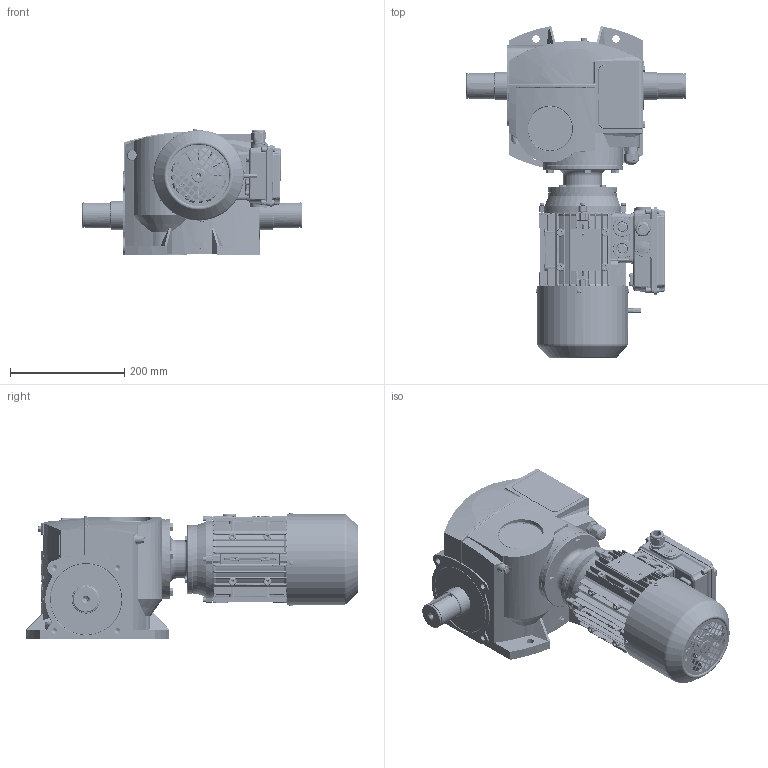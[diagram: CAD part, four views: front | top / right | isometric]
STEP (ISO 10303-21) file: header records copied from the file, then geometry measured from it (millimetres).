
FILE_DESCRIPTION (( 'STEP AP214' ), '1' );
FILE_NAME ('010192953_EWA_16_3D-Modell_DE_12216.9703.1901_10192953.STEP', '2023-03-13T09:28:34', ( '' ), ( '' ), 'SwSTEP 2.0', 'SolidWorks 2022', '' );
FILE_SCHEMA (( 'AUTOMOTIVE_DESIGN' ));
Length unit declared in the file: millimetre
Products named in the file (32): Wälzlager_10101395; Scheibe_10002061; 010219134__3D__DE_84174.0001.PF01; 010192953_EWA_16_3D-Modell_DE_12216.9703.1901_10192953; 010194921__3D-Modell_DE_90000.0001.5362_10194921; Kennzeichnung_10102984; Dichtelement_10075545; Deckel_10028707_78x7; 010201066_Normteil_Kaufteil_3D__DE_DIN 913 - M4 x 5-N; Elektroteil_10001640; Dichtelement_10101407; 010200793_EWA_14_3D__DE; 010186907__3D-Modell_DE_90000.0001.0239_10186907_DIN EN 24017 - M6 x 20-N; Elektroteil_10007290; Verbindungselement_10101396; Schraube_10014320; Gehäuse_10146042_END 20; Schneckenrad_10000544; Schraube_10057197; Dichtelement_10001564; 010200792_EWA_14_3D__DE; Deckel_10001319; Welle_10000548; 010191515_Normteil_Kaufteil_3D-Modell_DE_10191515; Sicherungselement_10101397; Dichtelement_10001203; Elektroteil_10028709; Kennzeichnung_10001854; Schraube_10018291; 010200791_EWA_14_3D__DE; Elektroantrieb_EWA_10101394_Ohne Inhalt; Elektroteil_10001639
Assembly tree (41 placements, depth 4):
  010192953_EWA_16_3D-Modell_DE_12216.9703.1901_10192953
    Elektroantrieb_EWA_10101394_Ohne Inhalt
      Gehäuse_10146042_END 20
      Elektroteil_10007290
        Elektroteil_10001639
        Elektroteil_10001640
      Elektroteil_10028709
      Deckel_10001319
      Schraube_10018291  x2
      Dichtelement_10075545
      010191515_Normteil_Kaufteil_3D-Modell_DE_10191515  x4
      Scheibe_10002061  x4
      Wälzlager_10101395
      010194921__3D-Modell_DE_90000.0001.5362_10194921
        Welle_10000548
      Dichtelement_10101407
      Deckel_10028707_78x7
    Schraube_10014320
    Dichtelement_10001564
    010219134__3D__DE_84174.0001.PF01
    010200791_EWA_14_3D__DE
      010200792_EWA_14_3D__DE
      010200793_EWA_14_3D__DE
      Dichtelement_10001203
      010186907__3D-Modell_DE_90000.0001.0239_10186907_DIN EN 24017 - M6 x 20-N  x4
      010201066_Normteil_Kaufteil_3D__DE_DIN 913 - M4 x 5-N
    Schraube_10057197  x4
    Kennzeichnung_10001854
    Kennzeichnung_10102984
  Verbindungselement_10101396
  Schneckenrad_10000544
  Sicherungselement_10101397
Bounding box: 385 x 581.14 x 221.75 mm (x, y, z)
Volume: 5656158.5 mm3; surface area: 1772598.4 mm2
Topology: 102 solids, 108 shells, 12540 faces, 31077 edges, 18863 vertices
Faces by surface type: plane 4408, cylinder 2925, bspline 2405, torus 1380, cone 1184, sphere 238
Entity records: 436290 total; most frequent: CARTESIAN_POINT 162899, ORIENTED_EDGE 60040, DIRECTION 52407, EDGE_CURVE 30020, AXIS2_PLACEMENT_3D 20143, VERTEX_POINT 18451, EDGE_LOOP 13145, FACE_OUTER_BOUND 12252
